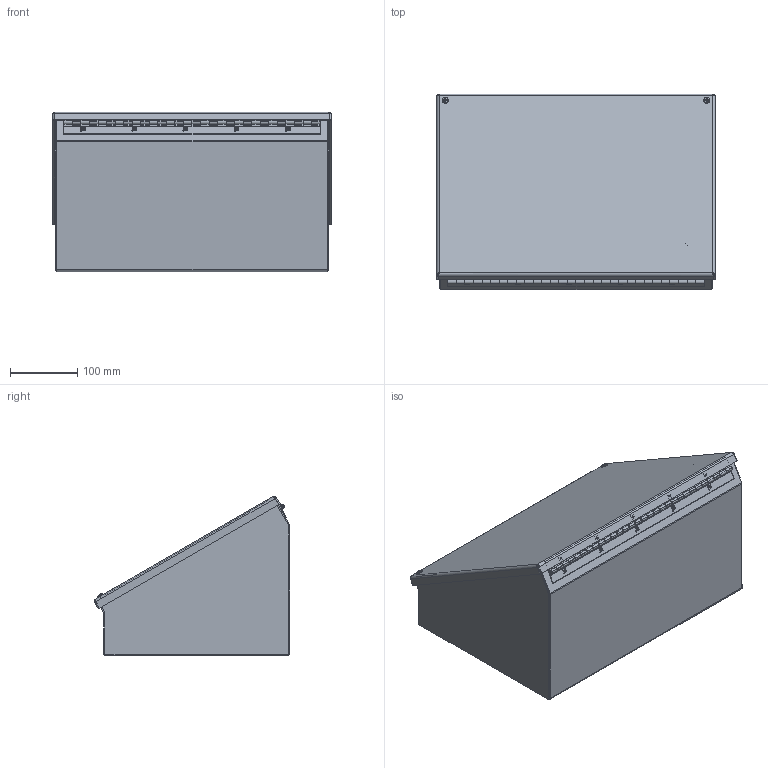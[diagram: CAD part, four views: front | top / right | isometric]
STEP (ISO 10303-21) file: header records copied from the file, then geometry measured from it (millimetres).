
FILE_DESCRIPTION (( 'STEP AP203' ), '1' );
FILE_NAME ('c12c16.STEP', '2013-05-13T14:46:23', ( 'User' ), ( 'Pentair Inc' ), 'SwSTEP 2.0', 'SolidWorks 2010', '' );
FILE_SCHEMA (( 'CONFIG_CONTROL_DESIGN' ));
Length unit declared in the file: inch
Products named in the file (17): 58324012; 89069086_CLOSED; 87540310; 99404181; 50103006_CLOSE; 89061654; 89061655; 89061670; 58110009; 31194001_as installed; 87789566_DEFAULT; 26132019_26132002; 58333105_PER MODEL; c12c16; 89068941_CLOSED; 58308015; 58324011
Assembly tree (19 placements, depth 5):
  c12c16
    89068941_CLOSED
      58308015
      58324011
      58110009  x2
      31194001_as installed
      89069086_CLOSED
        87540310
        50103006_CLOSE
          89061655
          89061654
          89061670
        99404181
      58324012
    87789566_DEFAULT  x2
    58333105_PER MODEL
    26132019_26132002  x2
Bounding box: 413.89 x 290.95 x 236.9 mm (x, y, z)
Volume: 997287.8 mm3; surface area: 1072307.2 mm2
Topology: 17 solids, 17 shells, 1131 faces, 2995 edges, 1933 vertices
Faces by surface type: plane 563, bspline 350, cylinder 174, cone 26, torus 10, sphere 8
Entity records: 48188 total; most frequent: CARTESIAN_POINT 21721, ORIENTED_EDGE 5710, DIRECTION 3987, EDGE_CURVE 2855, VERTEX_POINT 1852, VECTOR 1791, LINE 1791, EDGE_LOOP 1125
